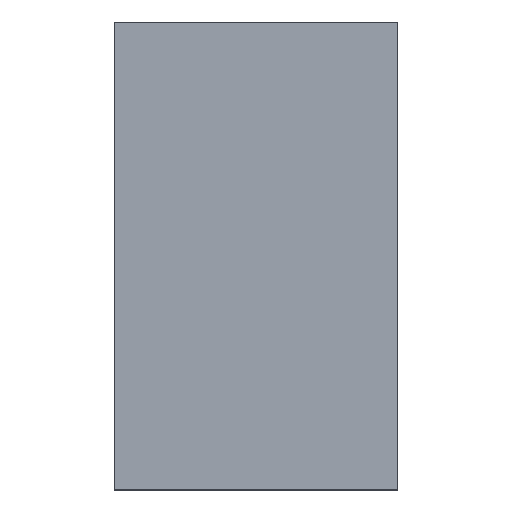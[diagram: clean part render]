
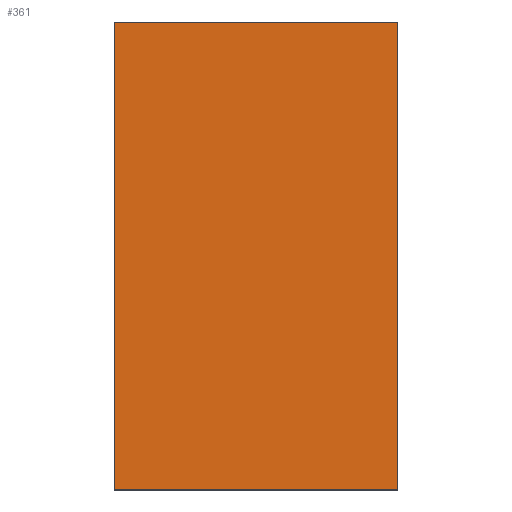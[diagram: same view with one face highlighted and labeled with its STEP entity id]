
A CAD part, top view. The second image highlights one B-rep face of the part: STEP entity #361.
In plain terms, the highlighted planar face has unit normal (0, 0, 1).
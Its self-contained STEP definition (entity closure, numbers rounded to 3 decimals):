
#47 = VERTEX_POINT('',#48);
#48 = CARTESIAN_POINT('',(-3.95,2.1,14.75));
#55 = PLANE('',#56);
#56 = AXIS2_PLACEMENT_3D('',#57,#58,#59);
#57 = CARTESIAN_POINT('',(-3.95,2.1,0.));
#58 = DIRECTION('',(0.,1.,0.));
#59 = DIRECTION('',(1.,0.,0.));
#67 = PLANE('',#68);
#68 = AXIS2_PLACEMENT_3D('',#69,#70,#71);
#69 = CARTESIAN_POINT('',(-3.95,-10.9,0.));
#70 = DIRECTION('',(-1.,0.,0.));
#71 = DIRECTION('',(0.,1.,0.));
#79 = EDGE_CURVE('',#47,#80,#82,.T.);
#80 = VERTEX_POINT('',#81);
#81 = CARTESIAN_POINT('',(3.95,2.1,14.75));
#82 = SURFACE_CURVE('',#83,(#87,#94),.PCURVE_S1.);
#83 = LINE('',#84,#85);
#84 = CARTESIAN_POINT('',(-3.95,2.1,14.75));
#85 = VECTOR('',#86,1.);
#86 = DIRECTION('',(1.,0.,0.));
#87 = PCURVE('',#55,#88);
#88 = DEFINITIONAL_REPRESENTATION('',(#89),#93);
#89 = LINE('',#90,#91);
#90 = CARTESIAN_POINT('',(0.,-14.75));
#91 = VECTOR('',#92,1.);
#92 = DIRECTION('',(1.,0.));
#93 = ( GEOMETRIC_REPRESENTATION_CONTEXT(2) 
PARAMETRIC_REPRESENTATION_CONTEXT() REPRESENTATION_CONTEXT('2D SPACE',''
  ) );
#94 = PCURVE('',#95,#100);
#95 = PLANE('',#96);
#96 = AXIS2_PLACEMENT_3D('',#97,#98,#99);
#97 = CARTESIAN_POINT('',(0.,-4.4,14.75));
#98 = DIRECTION('',(-0.,-0.,-1.));
#99 = DIRECTION('',(-1.,0.,0.));
#100 = DEFINITIONAL_REPRESENTATION('',(#101),#105);
#101 = LINE('',#102,#103);
#102 = CARTESIAN_POINT('',(3.95,6.5));
#103 = VECTOR('',#104,1.);
#104 = DIRECTION('',(-1.,0.));
#105 = ( GEOMETRIC_REPRESENTATION_CONTEXT(2) 
PARAMETRIC_REPRESENTATION_CONTEXT() REPRESENTATION_CONTEXT('2D SPACE',''
  ) );
#123 = PLANE('',#124);
#124 = AXIS2_PLACEMENT_3D('',#125,#126,#127);
#125 = CARTESIAN_POINT('',(3.95,2.1,0.));
#126 = DIRECTION('',(1.,0.,-0.));
#127 = DIRECTION('',(0.,-1.,0.));
#165 = EDGE_CURVE('',#80,#166,#168,.T.);
#166 = VERTEX_POINT('',#167);
#167 = CARTESIAN_POINT('',(3.95,-10.9,14.75));
#168 = SURFACE_CURVE('',#169,(#173,#180),.PCURVE_S1.);
#169 = LINE('',#170,#171);
#170 = CARTESIAN_POINT('',(3.95,2.1,14.75));
#171 = VECTOR('',#172,1.);
#172 = DIRECTION('',(0.,-1.,0.));
#173 = PCURVE('',#123,#174);
#174 = DEFINITIONAL_REPRESENTATION('',(#175),#179);
#175 = LINE('',#176,#177);
#176 = CARTESIAN_POINT('',(0.,-14.75));
#177 = VECTOR('',#178,1.);
#178 = DIRECTION('',(1.,0.));
#179 = ( GEOMETRIC_REPRESENTATION_CONTEXT(2) 
PARAMETRIC_REPRESENTATION_CONTEXT() REPRESENTATION_CONTEXT('2D SPACE',''
  ) );
#180 = PCURVE('',#95,#181);
#181 = DEFINITIONAL_REPRESENTATION('',(#182),#186);
#182 = LINE('',#183,#184);
#183 = CARTESIAN_POINT('',(-3.95,6.5));
#184 = VECTOR('',#185,1.);
#185 = DIRECTION('',(0.,-1.));
#186 = ( GEOMETRIC_REPRESENTATION_CONTEXT(2) 
PARAMETRIC_REPRESENTATION_CONTEXT() REPRESENTATION_CONTEXT('2D SPACE',''
  ) );
#204 = PLANE('',#205);
#205 = AXIS2_PLACEMENT_3D('',#206,#207,#208);
#206 = CARTESIAN_POINT('',(3.95,-10.9,0.));
#207 = DIRECTION('',(0.,-1.,0.));
#208 = DIRECTION('',(-1.,0.,0.));
#241 = EDGE_CURVE('',#166,#242,#244,.T.);
#242 = VERTEX_POINT('',#243);
#243 = CARTESIAN_POINT('',(-3.95,-10.9,14.75));
#244 = SURFACE_CURVE('',#245,(#249,#256),.PCURVE_S1.);
#245 = LINE('',#246,#247);
#246 = CARTESIAN_POINT('',(3.95,-10.9,14.75));
#247 = VECTOR('',#248,1.);
#248 = DIRECTION('',(-1.,0.,0.));
#249 = PCURVE('',#204,#250);
#250 = DEFINITIONAL_REPRESENTATION('',(#251),#255);
#251 = LINE('',#252,#253);
#252 = CARTESIAN_POINT('',(0.,-14.75));
#253 = VECTOR('',#254,1.);
#254 = DIRECTION('',(1.,0.));
#255 = ( GEOMETRIC_REPRESENTATION_CONTEXT(2) 
PARAMETRIC_REPRESENTATION_CONTEXT() REPRESENTATION_CONTEXT('2D SPACE',''
  ) );
#256 = PCURVE('',#95,#257);
#257 = DEFINITIONAL_REPRESENTATION('',(#258),#262);
#258 = LINE('',#259,#260);
#259 = CARTESIAN_POINT('',(-3.95,-6.5));
#260 = VECTOR('',#261,1.);
#261 = DIRECTION('',(1.,0.));
#262 = ( GEOMETRIC_REPRESENTATION_CONTEXT(2) 
PARAMETRIC_REPRESENTATION_CONTEXT() REPRESENTATION_CONTEXT('2D SPACE',''
  ) );
#312 = EDGE_CURVE('',#242,#47,#313,.T.);
#313 = SURFACE_CURVE('',#314,(#318,#325),.PCURVE_S1.);
#314 = LINE('',#315,#316);
#315 = CARTESIAN_POINT('',(-3.95,-10.9,14.75));
#316 = VECTOR('',#317,1.);
#317 = DIRECTION('',(0.,1.,0.));
#318 = PCURVE('',#67,#319);
#319 = DEFINITIONAL_REPRESENTATION('',(#320),#324);
#320 = LINE('',#321,#322);
#321 = CARTESIAN_POINT('',(0.,-14.75));
#322 = VECTOR('',#323,1.);
#323 = DIRECTION('',(1.,0.));
#324 = ( GEOMETRIC_REPRESENTATION_CONTEXT(2) 
PARAMETRIC_REPRESENTATION_CONTEXT() REPRESENTATION_CONTEXT('2D SPACE',''
  ) );
#325 = PCURVE('',#95,#326);
#326 = DEFINITIONAL_REPRESENTATION('',(#327),#331);
#327 = LINE('',#328,#329);
#328 = CARTESIAN_POINT('',(3.95,-6.5));
#329 = VECTOR('',#330,1.);
#330 = DIRECTION('',(0.,1.));
#331 = ( GEOMETRIC_REPRESENTATION_CONTEXT(2) 
PARAMETRIC_REPRESENTATION_CONTEXT() REPRESENTATION_CONTEXT('2D SPACE',''
  ) );
#361 = ADVANCED_FACE('',(#362),#95,.F.);
#362 = FACE_BOUND('',#363,.F.);
#363 = EDGE_LOOP('',(#364,#365,#366,#367));
#364 = ORIENTED_EDGE('',*,*,#79,.T.);
#365 = ORIENTED_EDGE('',*,*,#165,.T.);
#366 = ORIENTED_EDGE('',*,*,#241,.T.);
#367 = ORIENTED_EDGE('',*,*,#312,.T.);
